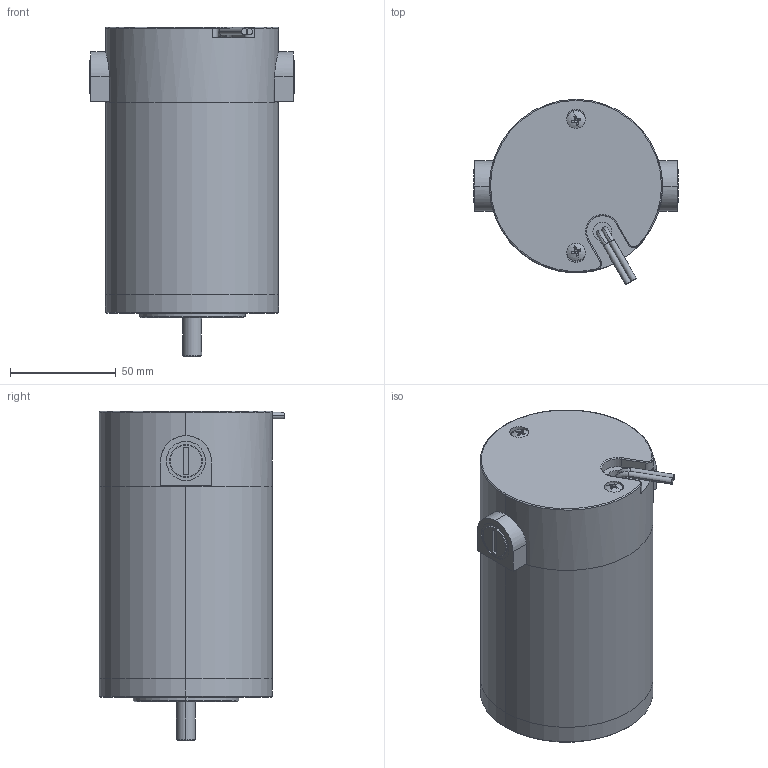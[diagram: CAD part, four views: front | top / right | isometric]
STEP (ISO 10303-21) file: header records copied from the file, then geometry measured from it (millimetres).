
FILE_DESCRIPTION (( 'STEP AP214' ), '1' );
FILE_NAME ('10.M7152 2023.STEP', '2023-09-13T14:43:23', ( 'Sky123.Org' ), ( 'Sky123.Org' ), 'SwSTEP 2.0', 'SolidWorks 2015', '' );
FILE_SCHEMA (( 'AUTOMOTIVE_DESIGN' ));
Length unit declared in the file: millimetre
Products named in the file (3): cross recessed pan head screw_jis m5 131L_JIS B 1111 Cross recessed pan head screw - M5 x 12 - Z --12N; 12.M7152-2023; 10.M7152 2023
Assembly tree (3 placements, depth 2):
  10.M7152 2023
    12.M7152-2023
    cross recessed pan head screw_jis m5 131L_JIS B 1111 Cross recessed pan head screw - M5 x 12 - Z --12N  x2
Bounding box: 97 x 87.79 x 156 mm (x, y, z)
Volume: 726034.9 mm3; surface area: 81342.3 mm2
Topology: 14 solids, 14 shells, 238 faces, 538 edges, 333 vertices
Faces by surface type: plane 97, cylinder 88, cone 26, torus 23, sphere 4
Entity records: 6747 total; most frequent: CARTESIAN_POINT 1108, DIRECTION 1074, ORIENTED_EDGE 888, EDGE_CURVE 444, AXIS2_PLACEMENT_3D 440, VERTEX_POINT 282, EDGE_LOOP 236, CIRCLE 230
